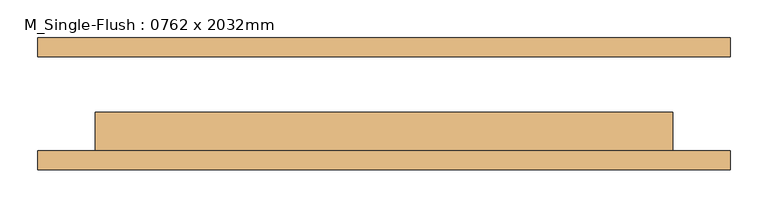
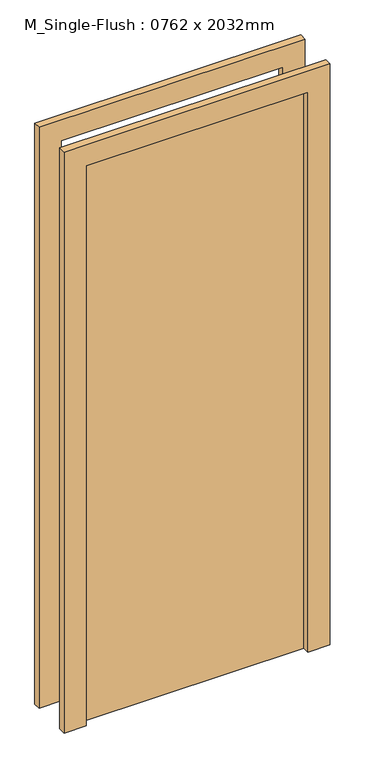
"""IFC4 building model written with IfcOpenShell, lengths in millimetres: door geometry, M_Single-Flush : 0762 x 2032mm."""

from ifc_helpers import new_model, si_unit, frame, origin, origin_with_axes, place, context, project, spatial, polyline, outline, extrude, source, transform, mapped, element, save


def m_single_flush_0762_x_2032mm_1c354163(model_context):
    return source(origin(), model_context, "Body", "SweptSolid", [
        extrude(outline(polyline([(2108.0, -457.0), (0.0, -457.0), (0.0, -381.0), (2032.0, -381.0), (2032.0, 381.0), (0.0, 381.0), (0.0, 457.0), (2108.0, 457.0), (2108.0, -457.0)])), frame((0.0, -87.0, 0.0), z_axis=(0.0, 1.0, 0.0), x_axis=(0.0, 0.0, 1.0)), (0.0, 0.0, 1.0), 25.0),
        extrude(outline(polyline([(2108.0, 457.0), (2108.0, -457.0), (0.0, -457.0), (0.0, -381.0), (2032.0, -381.0), (2032.0, 381.0), (0.0, 381.0), (0.0, 457.0), (2108.0, 457.0)])), frame((0.0, 62.0, 0.0), z_axis=(0.0, 1.0, 0.0), x_axis=(0.0, 0.0, 1.0)), (0.0, 0.0, 1.0), 25.0),
        extrude(outline(polyline([(381.0, -11.0), (381.0, -62.0), (-381.0, -62.0), (-381.0, -11.0), (381.0, -11.0)])), origin_with_axes(), (0.0, 0.0, 1.0), 2032.0),
    ])


if __name__ == "__main__":
    model = new_model("IFC4")
    model_context = context("Model", 3, world=origin())
    ifc_project = project(units=[si_unit("LENGTHUNIT", "METRE", prefix="MILLI")], contexts=[model_context])
    site = spatial("IfcSite", under=ifc_project)
    building = spatial("IfcBuilding", under=site)
    placement = place(None, origin())
    m_single_flush_0762_x_2032mm_shape = m_single_flush_0762_x_2032mm_1c354163(model_context)
    element("IfcDoor", 1, ObjectType="M_Single-Flush : 0762 x 2032mm", at=placement, inside=building, context=model_context, shape_type="MappedRepresentation", body=[
        mapped(m_single_flush_0762_x_2032mm_shape, transform((0.0, 0.0, 0.0), x_axis=(1.0, 0.0, 0.0), y_axis=(0.0, 1.0, 0.0), z_axis=(0.0, 0.0, 1.0))),
    ])
    save(model, "model.ifc")
